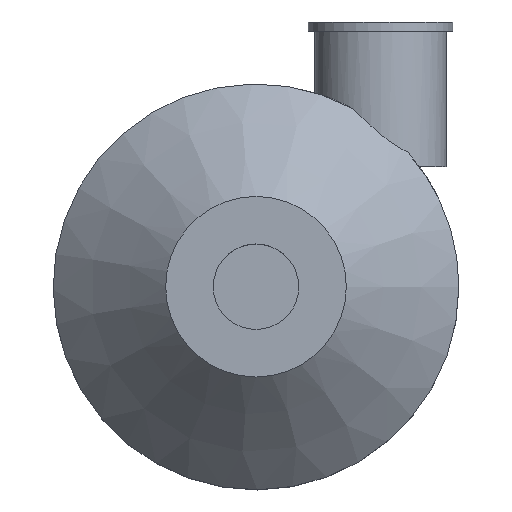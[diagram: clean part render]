
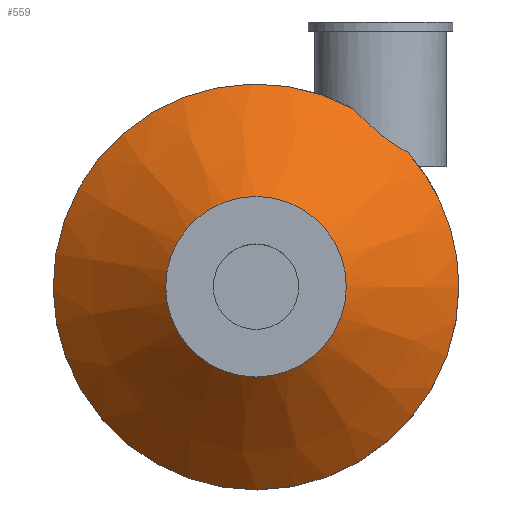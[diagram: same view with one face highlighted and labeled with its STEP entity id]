
A CAD part, top view. The second image highlights one B-rep face of the part: STEP entity #559.
In plain terms, the highlighted conical face has half-angle 46.26 degrees and reference radius 33.705 mm.
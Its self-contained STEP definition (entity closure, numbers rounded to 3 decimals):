
#203 = EDGE_CURVE('',#204,#206,#208,.T.);
#204 = VERTEX_POINT('',#205);
#205 = CARTESIAN_POINT('',(167.239,116.535,65.));
#206 = VERTEX_POINT('',#207);
#207 = CARTESIAN_POINT('',(171.7,112.33,65.95));
#208 = B_SPLINE_CURVE_WITH_KNOTS('',4,(#209,#210,#211,#212,#213,#214,
    #215,#216,#217,#218,#219,#220,#221,#222,#223,#224,#225,#226,#227,
    #228,#229,#230,#231,#232,#233,#234),.UNSPECIFIED.,.F.,.F.,(5,3,3,3,3
    ,3,3,3,5),(0.,0.135,0.266,0.396,
    0.521,0.645,0.766,0.884,1.),
  .UNSPECIFIED.);
#209 = CARTESIAN_POINT('',(167.239,116.535,65.));
#210 = CARTESIAN_POINT('',(167.369,116.395,
    65.058));
#211 = CARTESIAN_POINT('',(167.501,116.254,
    65.114));
#212 = CARTESIAN_POINT('',(167.634,116.113,
    65.168));
#213 = CARTESIAN_POINT('',(167.903,115.833,
    65.271));
#214 = CARTESIAN_POINT('',(168.037,115.694,
    65.321));
#215 = CARTESIAN_POINT('',(168.173,115.555,
    65.368));
#216 = CARTESIAN_POINT('',(168.447,115.28,
    65.457));
#217 = CARTESIAN_POINT('',(168.584,115.143,
    65.499));
#218 = CARTESIAN_POINT('',(168.722,115.007,
    65.538));
#219 = CARTESIAN_POINT('',(168.999,114.737,65.613)
  );
#220 = CARTESIAN_POINT('',(169.138,114.603,
    65.647));
#221 = CARTESIAN_POINT('',(169.278,114.47,
    65.68));
#222 = CARTESIAN_POINT('',(169.558,114.206,
    65.739));
#223 = CARTESIAN_POINT('',(169.699,114.075,
    65.767));
#224 = CARTESIAN_POINT('',(169.841,113.944,
    65.792));
#225 = CARTESIAN_POINT('',(170.124,113.686,65.837
    ));
#226 = CARTESIAN_POINT('',(170.266,113.558,
    65.857));
#227 = CARTESIAN_POINT('',(170.408,113.431,
    65.875));
#228 = CARTESIAN_POINT('',(170.694,113.18,
    65.905));
#229 = CARTESIAN_POINT('',(170.836,113.056,
    65.917));
#230 = CARTESIAN_POINT('',(170.98,112.932,
    65.927));
#231 = CARTESIAN_POINT('',(171.267,112.688,
    65.942));
#232 = CARTESIAN_POINT('',(171.41,112.568,
    65.947));
#233 = CARTESIAN_POINT('',(171.555,112.449,65.95));
#234 = CARTESIAN_POINT('',(171.7,112.33,65.95));
#252 = EDGE_CURVE('',#206,#253,#255,.T.);
#253 = VERTEX_POINT('',#254);
#254 = CARTESIAN_POINT('',(176.161,109.426,65.));
#255 = B_SPLINE_CURVE_WITH_KNOTS('',6,(#256,#257,#258,#259,#260,#261,
    #262,#263,#264,#265,#266,#267),.UNSPECIFIED.,.F.,.F.,(7,5,7),(0.,
    0.631,1.),.UNSPECIFIED.);
#256 = CARTESIAN_POINT('',(171.7,112.33,65.95));
#257 = CARTESIAN_POINT('',(172.141,111.97,65.95));
#258 = CARTESIAN_POINT('',(172.591,111.615,65.929
    ));
#259 = CARTESIAN_POINT('',(173.05,111.269,
    65.884));
#260 = CARTESIAN_POINT('',(173.517,110.934,65.815
    ));
#261 = CARTESIAN_POINT('',(173.991,110.615,
    65.719));
#262 = CARTESIAN_POINT('',(174.75,110.145,
    65.521));
#263 = CARTESIAN_POINT('',(175.032,109.979,
    65.437));
#264 = CARTESIAN_POINT('',(175.315,109.823,
    65.344));
#265 = CARTESIAN_POINT('',(175.598,109.677,
    65.24));
#266 = CARTESIAN_POINT('',(175.881,109.545,
    65.125));
#267 = CARTESIAN_POINT('',(176.161,109.426,65.));
#538 = EDGE_CURVE('',#539,#253,#541,.T.);
#539 = VERTEX_POINT('',#540);
#540 = CARTESIAN_POINT('',(184.705,87.,65.));
#541 = CIRCLE('',#542,33.705);
#542 = AXIS2_PLACEMENT_3D('',#543,#544,#545);
#543 = CARTESIAN_POINT('',(151.,87.,65.));
#544 = DIRECTION('',(0.,0.,1.));
#545 = DIRECTION('',(1.,0.,0.));
#547 = EDGE_CURVE('',#204,#539,#548,.T.);
#548 = CIRCLE('',#549,33.705);
#549 = AXIS2_PLACEMENT_3D('',#550,#551,#552);
#550 = CARTESIAN_POINT('',(151.,87.,65.));
#551 = DIRECTION('',(0.,0.,1.));
#552 = DIRECTION('',(1.,0.,0.));
#559 = ADVANCED_FACE('',(#560),#582,.T.);
#560 = FACE_BOUND('',#561,.T.);
#561 = EDGE_LOOP('',(#562,#570,#577,#578,#579,#580,#581));
#562 = ORIENTED_EDGE('',*,*,#563,.T.);
#563 = EDGE_CURVE('',#539,#564,#566,.T.);
#564 = VERTEX_POINT('',#565);
#565 = CARTESIAN_POINT('',(166.,87.,82.9));
#566 = LINE('',#567,#568);
#567 = CARTESIAN_POINT('',(184.705,87.,65.));
#568 = VECTOR('',#569,1.);
#569 = DIRECTION('',(-0.722,0.,0.691)
  );
#570 = ORIENTED_EDGE('',*,*,#571,.F.);
#571 = EDGE_CURVE('',#564,#564,#572,.T.);
#572 = CIRCLE('',#573,15.);
#573 = AXIS2_PLACEMENT_3D('',#574,#575,#576);
#574 = CARTESIAN_POINT('',(151.,87.,82.9));
#575 = DIRECTION('',(0.,0.,1.));
#576 = DIRECTION('',(1.,0.,0.));
#577 = ORIENTED_EDGE('',*,*,#563,.F.);
#578 = ORIENTED_EDGE('',*,*,#538,.T.);
#579 = ORIENTED_EDGE('',*,*,#252,.F.);
#580 = ORIENTED_EDGE('',*,*,#203,.F.);
#581 = ORIENTED_EDGE('',*,*,#547,.T.);
#582 = CONICAL_SURFACE('',#583,33.705,0.807);
#583 = AXIS2_PLACEMENT_3D('',#584,#585,#586);
#584 = CARTESIAN_POINT('',(151.,87.,65.));
#585 = DIRECTION('',(-0.,-0.,-1.));
#586 = DIRECTION('',(1.,0.,0.));
